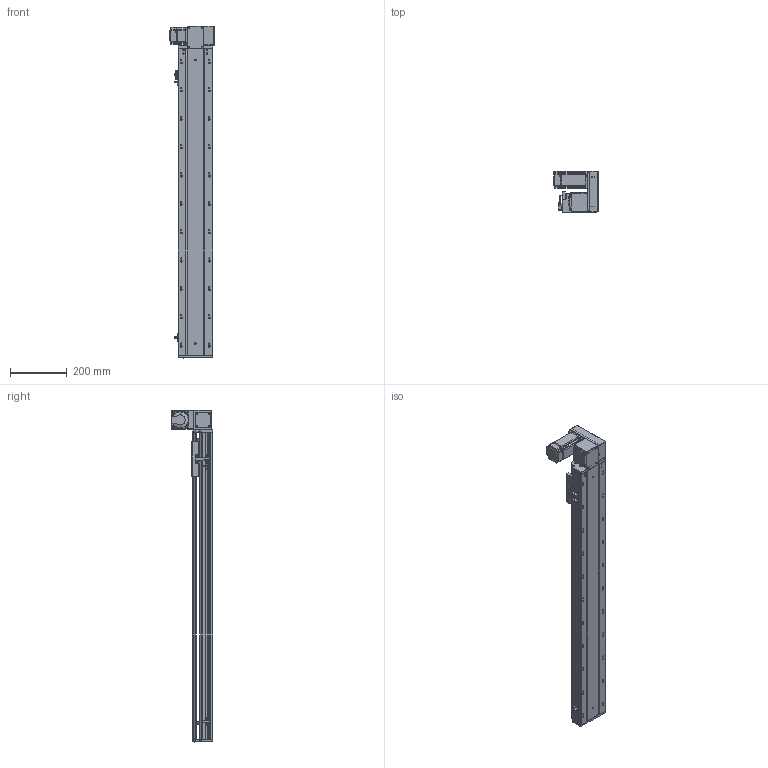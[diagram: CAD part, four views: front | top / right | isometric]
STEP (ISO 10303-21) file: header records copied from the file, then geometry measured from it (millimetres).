
FILE_DESCRIPTION (( 'STEP AP203' ), '1' );
FILE_NAME ('RY120-T-300-UR.SLDASM_850.step', '2021-03-01T05:56:24', ( '盈信电脑' ), ( '东莞市道滘镇水果街19号' ), 'SwSTEP 2.0', 'SolidWorks 2012', '' );
FILE_SCHEMA (( 'CONFIG_CONTROL_DESIGN' ));
Products named in the file (17): RY120-T-300-UR.SLDASM_850; RY120-T主同步轮轴承压盖; RY120-T萇儂欶; RY120-T翋肮祭謫裔啣; 滅袉蝶18-10; RY120-T蹟翐M4; 15; RY120-T萇儂假蚾啣; RY120-T肮祭湍揤踡輸2; RY120-T翋肮祭盓傅釱; RY120外置感应片(140共用）; 覜茼ん672; RY120綴裔啣; RY120-T肮祭湍揤踡輸1; RY120-T-300-UR倰第菁釱_850; RY120-T-300-UR倰第奻裔啣_850; RY120肮祭湍臏賑輸
Assembly tree (22 placements, depth 2):
  RY120-T-300-UR.SLDASM_850
    RY120-T-300-UR倰第菁釱_850
    RY120-T-300-UR倰第奻裔啣_850
    RY120肮祭湍臏賑輸
    RY120綴裔啣
    覜茼ん672  x3
    RY120外置感应片(140共用）
    RY120-T肮祭湍揤踡輸1
    RY120-T肮祭湍揤踡輸2
    RY120-T翋肮祭盓傅釱
    RY120-T萇儂假蚾啣
    滅袉蝶18-10  x2
    RY120-T翋肮祭謫裔啣
    15
    RY120-T蹟翐M4  x4
    RY120-T萇儂欶
    RY120-T主同步轮轴承压盖
Bounding box: 155.5 x 146 x 1171 mm (x, y, z)
Volume: 3281202.1 mm3; surface area: 1222308.3 mm2
Topology: 23 solids, 23 shells, 2968 faces, 8160 edges, 5250 vertices
Faces by surface type: plane 1456, cylinder 1174, cone 249, bspline 89
Entity records: 96449 total; most frequent: CARTESIAN_POINT 25608, ORIENTED_EDGE 14760, DIRECTION 13734, EDGE_CURVE 7380, VERTEX_POINT 4837, AXIS2_PLACEMENT_3D 4623, LINE 4488, VECTOR 4488
